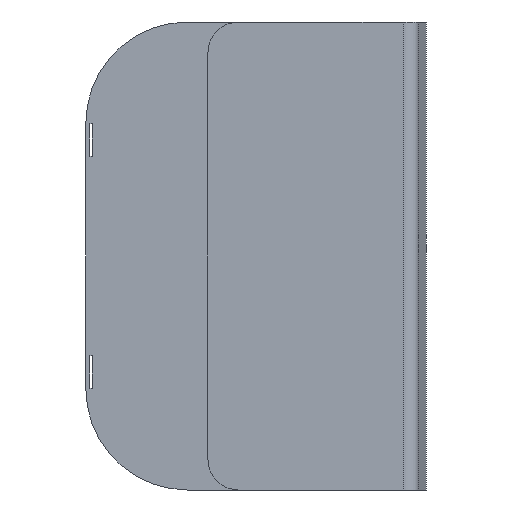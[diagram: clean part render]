
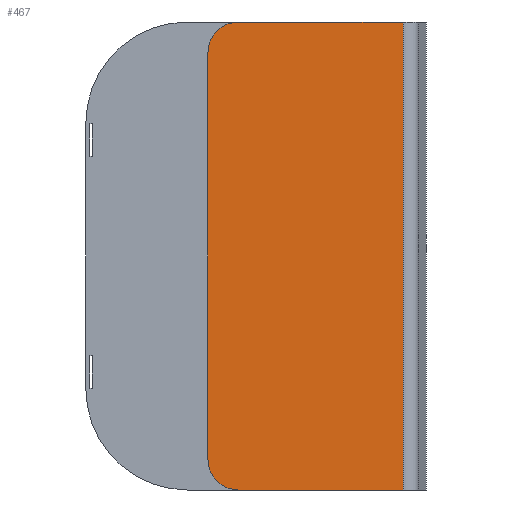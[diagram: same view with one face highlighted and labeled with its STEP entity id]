
A CAD part, left-side view. The second image highlights one B-rep face of the part: STEP entity #467.
In plain terms, the highlighted planar face has unit normal (-1, 0, 0).
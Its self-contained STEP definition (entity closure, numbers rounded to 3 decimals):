
#15 = EDGE_CURVE ( 'NONE', #322, #722, #101, .T. ) ;
#39 = VECTOR ( 'NONE', #770, 1000. ) ;
#62 = ORIENTED_EDGE ( 'NONE', *, *, #155, .T. ) ;
#97 = PLANE ( 'NONE',  #288 ) ;
#101 = LINE ( 'NONE', #570, #1064 ) ;
#108 = CARTESIAN_POINT ( 'NONE',  ( 28.675, -751.232, 6072. ) ) ;
#154 = CARTESIAN_POINT ( 'NONE',  ( 28.675, -751.232, 5612. ) ) ;
#155 = EDGE_CURVE ( 'NONE', #322, #1110, #949, .T. ) ;
#181 = CARTESIAN_POINT ( 'NONE',  ( 28.675, -751.232, 5642. ) ) ;
#189 = CIRCLE ( 'NONE', #1018, 30. ) ;
#221 = VERTEX_POINT ( 'NONE', #326 ) ;
#263 = CARTESIAN_POINT ( 'NONE',  ( 28.675, -751.232, 6042. ) ) ;
#288 = AXIS2_PLACEMENT_3D ( 'NONE', #933, #385, #368 ) ;
#296 = ORIENTED_EDGE ( 'NONE', *, *, #794, .T. ) ;
#322 = VERTEX_POINT ( 'NONE', #520 ) ;
#326 = CARTESIAN_POINT ( 'NONE',  ( 28.664, -721.232, 6042. ) ) ;
#364 = EDGE_CURVE ( 'NONE', #221, #613, #1166, .T. ) ;
#368 = DIRECTION ( 'NONE',  ( 0., 1., 0. ) ) ;
#385 = DIRECTION ( 'NONE',  ( 1., 0., 0. ) ) ;
#390 = VERTEX_POINT ( 'NONE', #154 ) ;
#441 = DIRECTION ( 'NONE',  ( -1., 0., 0. ) ) ;
#456 = CARTESIAN_POINT ( 'NONE',  ( 28.734, -913.15, 5612. ) ) ;
#467 = ADVANCED_FACE ( 'NONE', ( #846 ), #97, .F. ) ;
#487 = DIRECTION ( 'NONE',  ( 0., -1., 0. ) ) ;
#520 = CARTESIAN_POINT ( 'NONE',  ( 28.734, -913.15, 6072. ) ) ;
#570 = CARTESIAN_POINT ( 'NONE',  ( 28.734, -913.15, 0. ) ) ;
#595 = ORIENTED_EDGE ( 'NONE', *, *, #364, .T. ) ;
#613 = VERTEX_POINT ( 'NONE', #627 ) ;
#627 = CARTESIAN_POINT ( 'NONE',  ( 28.664, -721.232, 5642. ) ) ;
#656 = DIRECTION ( 'NONE',  ( 0., 0., -1. ) ) ;
#677 = CARTESIAN_POINT ( 'NONE',  ( 28.664, -721.232, 6072. ) ) ;
#721 = AXIS2_PLACEMENT_3D ( 'NONE', #263, #891, #1093 ) ;
#722 = VERTEX_POINT ( 'NONE', #456 ) ;
#770 = DIRECTION ( 'NONE',  ( 0., 1., 0. ) ) ;
#794 = EDGE_CURVE ( 'NONE', #1110, #221, #1028, .T. ) ;
#797 = EDGE_LOOP ( 'NONE', ( #595, #1049, #1060, #864, #62, #296 ) ) ;
#814 = DIRECTION ( 'NONE',  ( 0., 1., 0. ) ) ;
#823 = VECTOR ( 'NONE', #487, 1000. ) ;
#832 = DIRECTION ( 'NONE',  ( 0., 0., -1. ) ) ;
#846 = FACE_OUTER_BOUND ( 'NONE', #797, .T. ) ;
#864 = ORIENTED_EDGE ( 'NONE', *, *, #15, .F. ) ;
#891 = DIRECTION ( 'NONE',  ( -1., 0., 0. ) ) ;
#933 = CARTESIAN_POINT ( 'NONE',  ( 28.403, 0.01, 0. ) ) ;
#949 = LINE ( 'NONE', #677, #39 ) ;
#992 = EDGE_CURVE ( 'NONE', #613, #390, #189, .T. ) ;
#1018 = AXIS2_PLACEMENT_3D ( 'NONE', #181, #441, #814 ) ;
#1028 = CIRCLE ( 'NONE', #721, 30. ) ;
#1044 = LINE ( 'NONE', #1157, #823 ) ;
#1049 = ORIENTED_EDGE ( 'NONE', *, *, #992, .T. ) ;
#1060 = ORIENTED_EDGE ( 'NONE', *, *, #1176, .T. ) ;
#1064 = VECTOR ( 'NONE', #656, 1000. ) ;
#1075 = CARTESIAN_POINT ( 'NONE',  ( 28.664, -721.232, 5612. ) ) ;
#1093 = DIRECTION ( 'NONE',  ( 0., 1., 0. ) ) ;
#1110 = VERTEX_POINT ( 'NONE', #108 ) ;
#1157 = CARTESIAN_POINT ( 'NONE',  ( 28.738, -924.427, 5612. ) ) ;
#1166 = LINE ( 'NONE', #1075, #1180 ) ;
#1176 = EDGE_CURVE ( 'NONE', #390, #722, #1044, .T. ) ;
#1180 = VECTOR ( 'NONE', #832, 1000. ) ;
